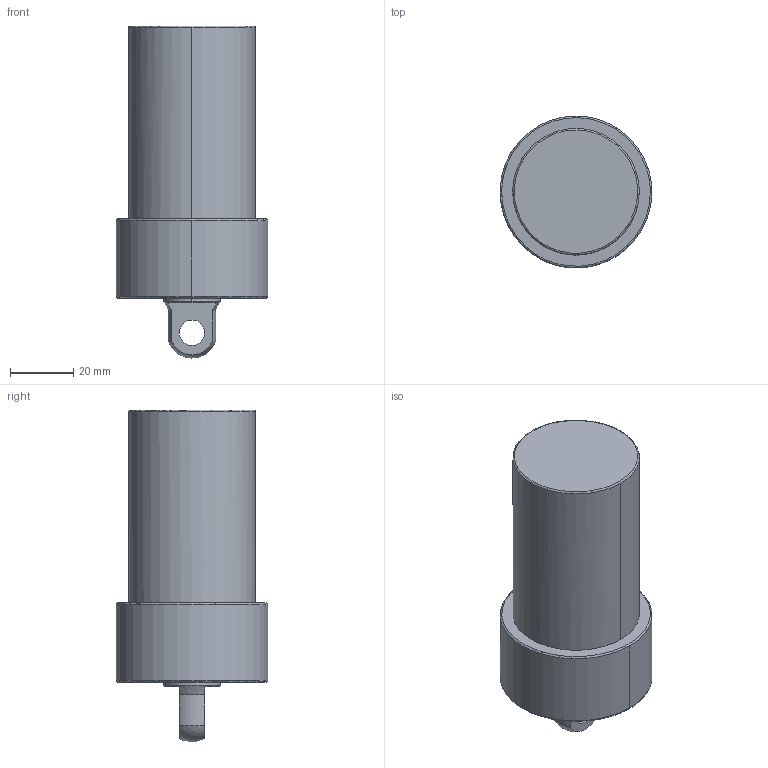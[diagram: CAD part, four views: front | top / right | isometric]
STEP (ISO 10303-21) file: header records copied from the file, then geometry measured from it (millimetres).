
FILE_DESCRIPTION((' '),'2;1');
FILE_NAME( 'TLLU-040GP-050.STEP.stp', '2025-10-24T16:37:16', (' '), ('--- Datakit www.datakit.com---'), ' Datakit CrossCadWare V2024.1 Dec 21 2023', 'Mastercam 2025', ' ');
FILE_SCHEMA(('AUTOMOTIVE_DESIGN { 1 0 10303 214 1 1 1 1 }'));
Length unit declared in the file: millimetre
Products named in the file (1): TLLU-040GP-050
Bounding box: 47.99 x 48 x 104.96 mm (x, y, z)
Volume: 122724 mm3; surface area: 16572.5 mm2
Topology: 1 solids, 1 shells, 56 faces, 167 edges, 113 vertices
Faces by surface type: cylinder 22, cone 18, plane 9, torus 6, sphere 1
Entity records: 1952 total; most frequent: DIRECTION 380, CARTESIAN_POINT 341, ORIENTED_EDGE 318, AXIS2_PLACEMENT_3D 168, EDGE_CURVE 159, VERTEX_POINT 113, CIRCLE 111, EDGE_LOOP 66
